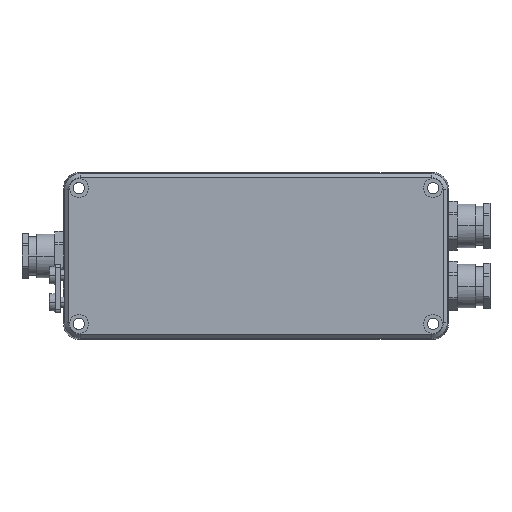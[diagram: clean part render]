
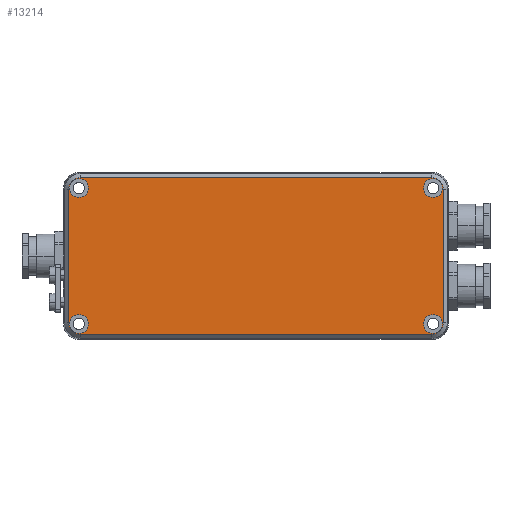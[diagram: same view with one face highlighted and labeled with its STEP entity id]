
A CAD part, front view. The second image highlights one B-rep face of the part: STEP entity #13214.
In plain terms, the highlighted free-form (B-spline) face has degree [1, 1] with [2, 2] control points.
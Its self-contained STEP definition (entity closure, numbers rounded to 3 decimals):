
#2852=DIRECTION('',(1.,0.,0.));
#2853=VECTOR('',#2852,137.077);
#2854=CARTESIAN_POINT('',(-68.55,-28.,30.484));
#2855=LINE('',#2854,#2853);
#2860=CARTESIAN_POINT('',(-72.996,-28.,-26.038));
#2861=CARTESIAN_POINT('',(-73.001,-28.,-27.204));
#2862=CARTESIAN_POINT('',(-72.029,-28.,-29.518));
#2863=CARTESIAN_POINT('',(-69.715,-28.,-30.489));
#2864=CARTESIAN_POINT('',(-68.55,-28.,-30.484));
#2866=CARTESIAN_POINT('',(-68.55,-28.,30.484));
#2867=CARTESIAN_POINT('',(-69.715,-28.,30.489));
#2868=CARTESIAN_POINT('',(-72.029,-28.,29.518));
#2869=CARTESIAN_POINT('',(-73.001,-28.,27.204));
#2870=CARTESIAN_POINT('',(-72.996,-28.,26.038));
#2872=CARTESIAN_POINT('',(72.973,-28.,26.038));
#2873=CARTESIAN_POINT('',(72.978,-28.,27.204));
#2874=CARTESIAN_POINT('',(72.006,-28.,29.518));
#2875=CARTESIAN_POINT('',(69.693,-28.,30.489));
#2876=CARTESIAN_POINT('',(68.527,-28.,30.484));
#2878=CARTESIAN_POINT('',(68.527,-28.,-30.484));
#2879=CARTESIAN_POINT('',(69.693,-28.,-30.489));
#2880=CARTESIAN_POINT('',(72.006,-28.,-29.518));
#2881=CARTESIAN_POINT('',(72.978,-28.,-27.204));
#2882=CARTESIAN_POINT('',(72.973,-28.,-26.038));
#2884=CARTESIAN_POINT('',(68.989,-28.,-26.5));
#2885=DIRECTION('',(0.,1.,0.));
#2886=DIRECTION('',(0.,0.,1.));
#2887=AXIS2_PLACEMENT_3D('',#2884,#2885,#2886);
#2889=CARTESIAN_POINT('',(68.989,-28.,-26.5));
#2890=DIRECTION('',(0.,1.,0.));
#2891=DIRECTION('',(0.,0.,-1.));
#2892=AXIS2_PLACEMENT_3D('',#2889,#2890,#2891);
#2894=CARTESIAN_POINT('',(-69.011,-28.,-26.5));
#2895=DIRECTION('',(0.,1.,0.));
#2896=DIRECTION('',(0.,0.,1.));
#2897=AXIS2_PLACEMENT_3D('',#2894,#2895,#2896);
#2899=CARTESIAN_POINT('',(-69.011,-28.,-26.5));
#2900=DIRECTION('',(0.,1.,0.));
#2901=DIRECTION('',(0.,0.,-1.));
#2902=AXIS2_PLACEMENT_3D('',#2899,#2900,#2901);
#2904=CARTESIAN_POINT('',(68.989,-28.,26.5));
#2905=DIRECTION('',(0.,1.,0.));
#2906=DIRECTION('',(0.,0.,1.));
#2907=AXIS2_PLACEMENT_3D('',#2904,#2905,#2906);
#2909=CARTESIAN_POINT('',(68.989,-28.,26.5));
#2910=DIRECTION('',(0.,1.,0.));
#2911=DIRECTION('',(0.,0.,-1.));
#2912=AXIS2_PLACEMENT_3D('',#2909,#2910,#2911);
#2914=CARTESIAN_POINT('',(-69.011,-28.,26.5));
#2915=DIRECTION('',(0.,1.,0.));
#2916=DIRECTION('',(0.,0.,1.));
#2917=AXIS2_PLACEMENT_3D('',#2914,#2915,#2916);
#2919=CARTESIAN_POINT('',(-69.011,-28.,26.5));
#2920=DIRECTION('',(0.,1.,0.));
#2921=DIRECTION('',(0.,0.,-1.));
#2922=AXIS2_PLACEMENT_3D('',#2919,#2920,#2921);
#2932=DIRECTION('',(0.,0.,1.));
#2933=VECTOR('',#2932,52.077);
#2934=CARTESIAN_POINT('',(-72.996,-28.,-26.038));
#2935=LINE('',#2934,#2933);
#3276=DIRECTION('',(-1.,0.,0.));
#3277=VECTOR('',#3276,137.077);
#3278=CARTESIAN_POINT('',(68.527,-28.,-30.484));
#3279=LINE('',#3278,#3277);
#3296=DIRECTION('',(0.,0.,-1.));
#3297=VECTOR('',#3296,52.077);
#3298=CARTESIAN_POINT('',(72.973,-28.,26.038));
#3299=LINE('',#3298,#3297);
#7657=CARTESIAN_POINT('',(-68.55,-28.,-30.484));
#7659=VERTEX_POINT('',#7657);
#7720=CARTESIAN_POINT('',(-69.011,-28.,-30.2));
#7721=CARTESIAN_POINT('',(-69.011,-28.,-22.8));
#7722=VERTEX_POINT('',#7720);
#7723=VERTEX_POINT('',#7721);
#7818=CARTESIAN_POINT('',(68.989,-28.,22.8));
#7820=VERTEX_POINT('',#7818);
#7826=CARTESIAN_POINT('',(-69.011,-28.,30.2));
#7827=CARTESIAN_POINT('',(-69.011,-28.,22.8));
#7828=VERTEX_POINT('',#7826);
#7829=VERTEX_POINT('',#7827);
#7878=CARTESIAN_POINT('',(68.989,-28.,-30.2));
#7879=CARTESIAN_POINT('',(68.989,-28.,-22.8));
#7880=VERTEX_POINT('',#7878);
#7881=VERTEX_POINT('',#7879);
#7954=CARTESIAN_POINT('',(68.989,-28.,30.2));
#7955=VERTEX_POINT('',#7954);
#8019=CARTESIAN_POINT('',(-72.996,-28.,26.038));
#8020=VERTEX_POINT('',#8019);
#8044=CARTESIAN_POINT('',(-68.55,-28.,30.484));
#8045=CARTESIAN_POINT('',(68.527,-28.,30.484));
#8046=VERTEX_POINT('',#8044);
#8047=VERTEX_POINT('',#8045);
#8050=CARTESIAN_POINT('',(-72.996,-28.,-26.038));
#8051=VERTEX_POINT('',#8050);
#8087=CARTESIAN_POINT('',(72.973,-28.,26.038));
#8088=CARTESIAN_POINT('',(72.973,-28.,-26.038));
#8089=VERTEX_POINT('',#8087);
#8090=VERTEX_POINT('',#8088);
#8101=VERTEX_POINT('',#2878);
#13169=CARTESIAN_POINT('',(-75.915,-28.,-31.704));
#13170=CARTESIAN_POINT('',(75.892,-28.,-31.704));
#13171=CARTESIAN_POINT('',(-75.915,-28.,31.704));
#13172=CARTESIAN_POINT('',(75.892,-28.,31.704));
#13173=B_SPLINE_SURFACE_WITH_KNOTS('',1,1,((#13169,#13170),(#13171,#13172)),
.UNSPECIFIED.,.F.,.F.,.F.,(2,2),(2,2),(-31.704,31.704),(
-75.904,75.904),.UNSPECIFIED.);
#13175=ORIENTED_EDGE('',*,*,#13174,.F.);
#13177=ORIENTED_EDGE('',*,*,#13176,.T.);
#13179=ORIENTED_EDGE('',*,*,#13178,.F.);
#13180=ORIENTED_EDGE('',*,*,#13160,.T.);
#13181=ORIENTED_EDGE('',*,*,#13149,.F.);
#13183=ORIENTED_EDGE('',*,*,#13182,.T.);
#13185=ORIENTED_EDGE('',*,*,#13184,.F.);
#13187=ORIENTED_EDGE('',*,*,#13186,.T.);
#13188=EDGE_LOOP('',(#13175,#13177,#13179,#13180,#13181,#13183,#13185,#13187));
#13189=FACE_OUTER_BOUND('',#13188,.F.);
#13191=ORIENTED_EDGE('',*,*,#13190,.F.);
#13193=ORIENTED_EDGE('',*,*,#13192,.F.);
#13194=EDGE_LOOP('',(#13191,#13193));
#13195=FACE_BOUND('',#13194,.F.);
#13197=ORIENTED_EDGE('',*,*,#13196,.F.);
#13199=ORIENTED_EDGE('',*,*,#13198,.F.);
#13200=EDGE_LOOP('',(#13197,#13199));
#13201=FACE_BOUND('',#13200,.F.);
#13203=ORIENTED_EDGE('',*,*,#13202,.F.);
#13205=ORIENTED_EDGE('',*,*,#13204,.F.);
#13206=EDGE_LOOP('',(#13203,#13205));
#13207=FACE_BOUND('',#13206,.F.);
#13209=ORIENTED_EDGE('',*,*,#13208,.F.);
#13211=ORIENTED_EDGE('',*,*,#13210,.F.);
#13212=EDGE_LOOP('',(#13209,#13211));
#13213=FACE_BOUND('',#13212,.F.);
#13214=ADVANCED_FACE('',(#13189,#13195,#13201,#13207,#13213),#13173,.F.);
#2865=B_SPLINE_CURVE_WITH_KNOTS('',3,(#2860,#2861,#2862,#2863,#2864),
.UNSPECIFIED.,.F.,.F.,(4,1,4),(0.,0.5,1.),.UNSPECIFIED.);
#2871=B_SPLINE_CURVE_WITH_KNOTS('',3,(#2866,#2867,#2868,#2869,#2870),
.UNSPECIFIED.,.F.,.F.,(4,1,4),(0.,0.5,1.),.UNSPECIFIED.);
#2877=B_SPLINE_CURVE_WITH_KNOTS('',3,(#2872,#2873,#2874,#2875,#2876),
.UNSPECIFIED.,.F.,.F.,(4,1,4),(0.,0.5,1.),.UNSPECIFIED.);
#2883=B_SPLINE_CURVE_WITH_KNOTS('',3,(#2878,#2879,#2880,#2881,#2882),
.UNSPECIFIED.,.F.,.F.,(4,1,4),(0.,0.5,1.),.UNSPECIFIED.);
#2888=CIRCLE('',#2887,3.7);
#2893=CIRCLE('',#2892,3.7);
#2898=CIRCLE('',#2897,3.7);
#2903=CIRCLE('',#2902,3.7);
#2908=CIRCLE('',#2907,3.7);
#2913=CIRCLE('',#2912,3.7);
#2918=CIRCLE('',#2917,3.7);
#2923=CIRCLE('',#2922,3.7);
#13149=EDGE_CURVE('',#8089,#8047,#2877,.T.);
#13160=EDGE_CURVE('',#8046,#8047,#2855,.T.);
#13174=EDGE_CURVE('',#8051,#7659,#2865,.T.);
#13176=EDGE_CURVE('',#8051,#8020,#2935,.T.);
#13178=EDGE_CURVE('',#8046,#8020,#2871,.T.);
#13182=EDGE_CURVE('',#8089,#8090,#3299,.T.);
#13184=EDGE_CURVE('',#8101,#8090,#2883,.T.);
#13186=EDGE_CURVE('',#8101,#7659,#3279,.T.);
#13190=EDGE_CURVE('',#7881,#7880,#2888,.T.);
#13192=EDGE_CURVE('',#7880,#7881,#2893,.T.);
#13196=EDGE_CURVE('',#7723,#7722,#2898,.T.);
#13198=EDGE_CURVE('',#7722,#7723,#2903,.T.);
#13202=EDGE_CURVE('',#7955,#7820,#2908,.T.);
#13204=EDGE_CURVE('',#7820,#7955,#2913,.T.);
#13208=EDGE_CURVE('',#7828,#7829,#2918,.T.);
#13210=EDGE_CURVE('',#7829,#7828,#2923,.T.);
